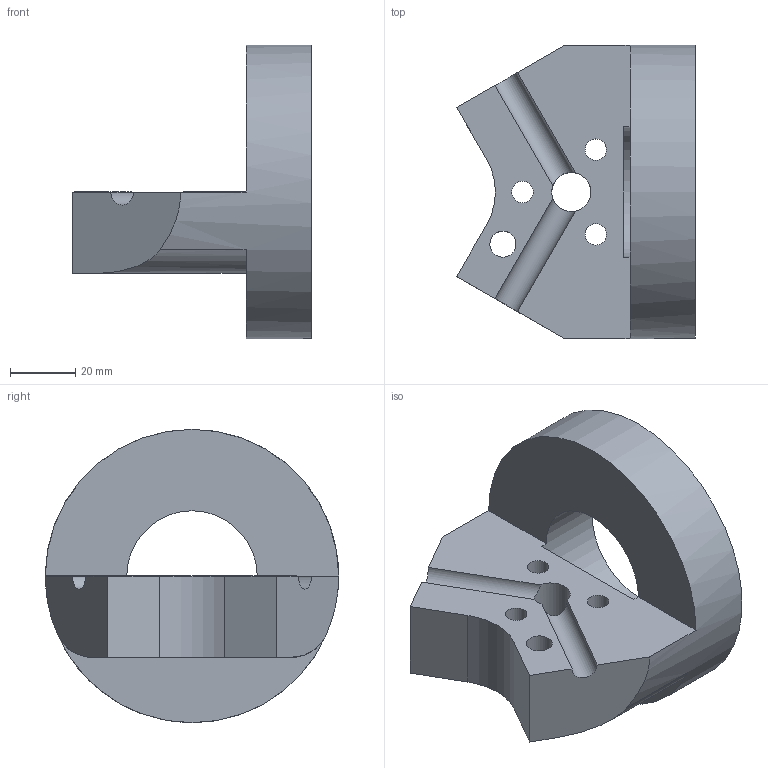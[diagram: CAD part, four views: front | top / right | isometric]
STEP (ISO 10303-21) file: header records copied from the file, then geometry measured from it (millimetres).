
FILE_DESCRIPTION(('STEP AP203'),'1');
FILE_NAME('.stp','2021-04-25T05:54:42',(' '),(' '),'Spatial InterOp 3D',' ',' ');
FILE_SCHEMA(('CONFIG_CONTROL_DESIGN'));
Length unit declared in the file: millimetre
Products named in the file (1): 1
Bounding box: 73.16 x 90 x 90 mm (x, y, z)
Volume: 182345.3 mm3; surface area: 32124.6 mm2
Topology: 1 solids, 1 shells, 29 faces, 78 edges, 52 vertices
Faces by surface type: cylinder 15, plane 14
Full cylindrical faces by diameter (mm): 6.6 x3, 8 x1, 11 x3, 12 x1, 40 x1, 90 x1
Entity records: 978 total; most frequent: CARTESIAN_POINT 210, DIRECTION 156, ORIENTED_EDGE 130, EDGE_CURVE 65, AXIS2_PLACEMENT_3D 63, EDGE_LOOP 52, VERTEX_POINT 49, FACE_OUTER_BOUND 39
